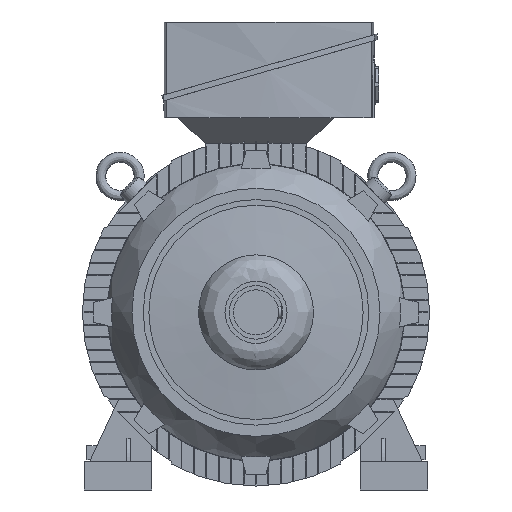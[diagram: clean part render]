
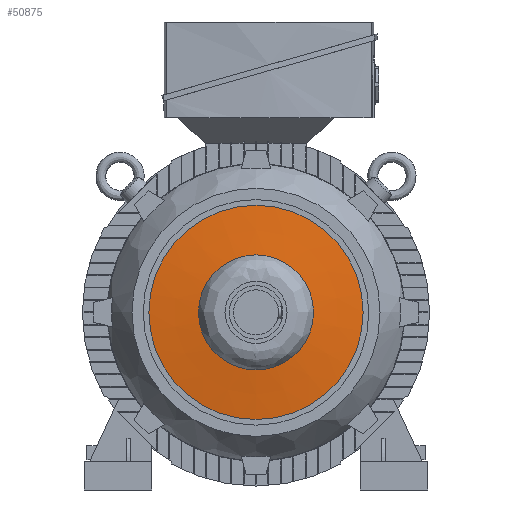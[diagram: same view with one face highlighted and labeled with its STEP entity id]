
A CAD part, left-side view. The second image highlights one B-rep face of the part: STEP entity #50875.
In plain terms, the highlighted conical face has half-angle 83.517 degrees and reference radius 190 mm.
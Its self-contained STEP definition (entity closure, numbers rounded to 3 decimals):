
#14611 = AXIS2_PLACEMENT_3D ( 'NONE', #17188, #17190, #17204 ) ;
#16085 = FACE_OUTER_BOUND ( 'NONE', #31406, .T. ) ;
#16093 = FACE_BOUND ( 'NONE', #31410, .T. ) ;
#16119 = CONICAL_SURFACE ( 'NONE', #14611, 190., 1.458 ) ;
#17188 = CARTESIAN_POINT ( 'NONE',  ( -64., 0., 0. ) ) ;
#17190 = DIRECTION ( 'NONE',  ( 1., 0., 0. ) ) ;
#17204 = DIRECTION ( 'NONE',  ( 0., 0., -1. ) ) ;
#21397 = CARTESIAN_POINT ( 'NONE',  ( -74., 102., 0. ) ) ;
#21398 = CARTESIAN_POINT ( 'NONE',  ( -64., 0., -190. ) ) ;
#22926 = VERTEX_POINT ( 'NONE', #21397 ) ;
#22927 = VERTEX_POINT ( 'NONE', #21398 ) ;
#26808 = EDGE_CURVE ( 'NONE', #22926, #22926, #37833, .T. ) ;
#26867 = EDGE_CURVE ( 'NONE', #22927, #22927, #39003, .T. ) ;
#30129 = ORIENTED_EDGE ( 'NONE', *, *, #26867, .F. ) ;
#30130 = ORIENTED_EDGE ( 'NONE', *, *, #26808, .T. ) ;
#31406 = EDGE_LOOP ( 'NONE', ( #30129 ) ) ;
#31410 = EDGE_LOOP ( 'NONE', ( #30130 ) ) ;
#33176 = AXIS2_PLACEMENT_3D ( 'NONE', #38863, #38864, #38865 ) ;
#33181 = AXIS2_PLACEMENT_3D ( 'NONE', #40156, #40157, #40158 ) ;
#37833 = CIRCLE ( 'NONE', #33176, 102. ) ;
#38863 = CARTESIAN_POINT ( 'NONE',  ( -74., 0., 0. ) ) ;
#38864 = DIRECTION ( 'NONE',  ( 1., 0., 0. ) ) ;
#38865 = DIRECTION ( 'NONE',  ( 0., 1., 0. ) ) ;
#39003 = CIRCLE ( 'NONE', #33181, 190. ) ;
#40156 = CARTESIAN_POINT ( 'NONE',  ( -64., 0., 0. ) ) ;
#40157 = DIRECTION ( 'NONE',  ( 1., 0., 0. ) ) ;
#40158 = DIRECTION ( 'NONE',  ( 0., 0., -1. ) ) ;
#50875 = ADVANCED_FACE ( 'NONE', ( #16085, #16093 ), #16119, .T. ) ;
